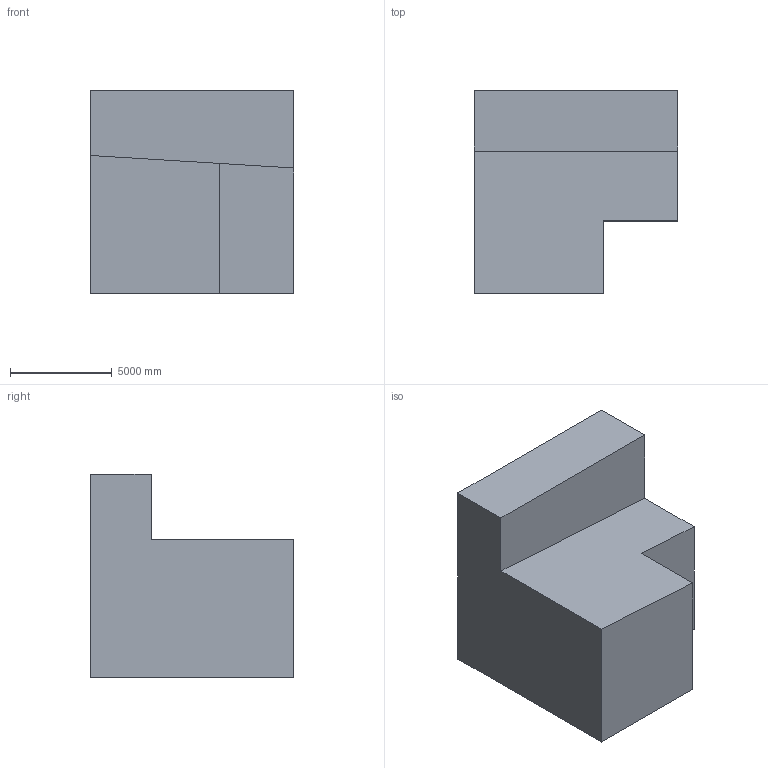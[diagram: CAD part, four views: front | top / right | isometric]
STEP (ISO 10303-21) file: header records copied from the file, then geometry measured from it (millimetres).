
FILE_DESCRIPTION (( 'STEP AP203' ), '1' );
FILE_NAME ('1243.STEP', '2022-08-18T13:21:33', ( 'user' ), ( '' ), 'SwSTEP 2.0', 'SolidWorks 2021', '' );
FILE_SCHEMA (( 'CONFIG_CONTROL_DESIGN' ));
Length unit declared in the file: centimetre
Products named in the file (1): 1243
Bounding box: 10000 x 10000 x 10000 mm (x, y, z)
Volume: 645590174241.7 mm3; surface area: 571698448.6 mm2
Topology: 1 solids, 1 shells, 14 faces, 33 edges, 22 vertices
Faces by surface type: plane 14
Entity records: 474 total; most frequent: CARTESIAN_POINT 70, ORIENTED_EDGE 66, DIRECTION 63, EDGE_CURVE 33, VECTOR 33, LINE 33, VERTEX_POINT 22, AXIS2_PLACEMENT_3D 15
